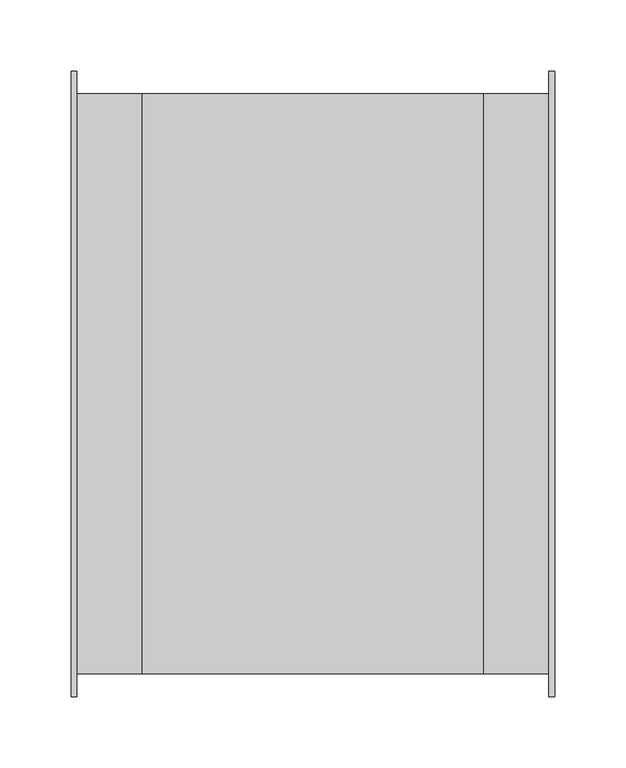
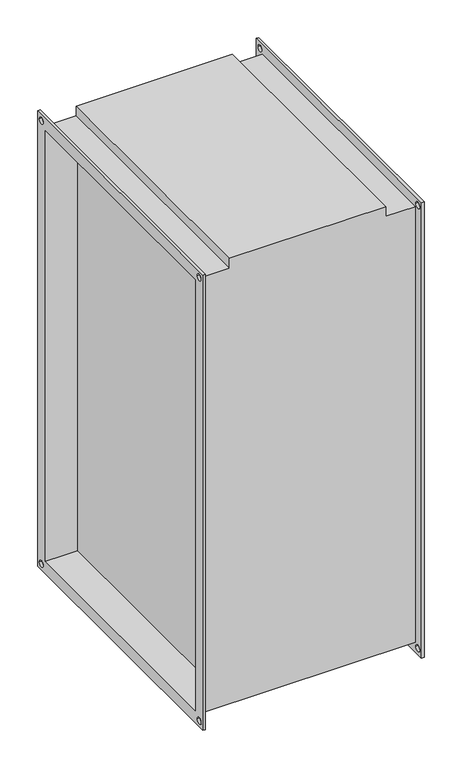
"""IFC4 building model written with IfcOpenShell, lengths in millimetres: proxy geometry, СВ_ВоздухонагревательЭлектрический_КанальныйПрямоугольный_200-1000_SPH-E : SPH-E-700x400/45."""

from ifc_helpers import new_model, si_unit, frame, origin, place, context, project, spatial, polyline, circle_curve, source, transform, mapped, element, save
from ifc_brep_helpers import plane_surface, revolved_surface, advanced_brep


def mechanical_equipment_1e4f478c(model_context):
    return source(origin(), model_context, "Body", "AdvancedBrep", [
        advanced_brep(
        [(-120.0, -204.0, 354.0), (-166.0, -204.0, 354.0), (-166.0, -204.0, -354.0), (166.0, -204.0, -354.0), (166.0, -204.0, 354.0), (120.0, -204.0, 354.0), (120.0, -204.0, 370.0), (-120.0, -204.0, 370.0), (-166.0, 204.0, -354.0), (166.0, 204.0, -354.0), (-166.0, 204.0, 354.0), (-120.0, 204.0, 354.0), (-120.0, 204.0, 370.0), (120.0, 204.0, 370.0), (120.0, 204.0, 354.0), (166.0, 204.0, 354.0), (120.0, 200.0, -350.0), (120.0, 200.0, 350.0), (120.0, -200.0, 350.0), (120.0, -200.0, -350.0), (-120.0, -200.0, 350.0), (-120.0, 200.0, 350.0), (-120.0, 200.0, -350.0), (-120.0, -200.0, -350.0), (-170.0, -220.0, 370.0), (-170.0, 220.0, 370.0), (-170.0, 220.0, -370.0), (-170.0, -220.0, -370.0), (-170.0, -200.0, 350.0), (-170.0, -200.0, -350.0), (-170.0, 200.0, -350.0), (-170.0, 200.0, 350.0), (-170.0, 205.0, 360.0), (-170.0, 215.0, 360.0), (-170.0, -215.0, 360.0), (-170.0, -205.0, 360.0), (-170.0, -215.0, -360.0), (-170.0, -205.0, -360.0), (-170.0, 205.0, -360.0), (-170.0, 215.0, -360.0), (-166.0, -220.0, 370.0), (-166.0, -220.0, -370.0), (-166.0, 220.0, -370.0), (-166.0, 220.0, 370.0), (-166.0, 215.0, 360.0), (-166.0, 205.0, 360.0), (-166.0, -205.0, 360.0), (-166.0, -215.0, 360.0), (-166.0, -205.0, -360.0), (-166.0, -215.0, -360.0), (-166.0, 215.0, -360.0), (-166.0, 205.0, -360.0), (166.0, 220.0, 370.0), (166.0, 220.0, -370.0), (166.0, -220.0, -370.0), (166.0, -220.0, 370.0), (166.0, 205.0, 360.0), (166.0, 215.0, 360.0), (166.0, -215.0, 360.0), (166.0, -205.0, 360.0), (166.0, -215.0, -360.0), (166.0, -205.0, -360.0), (166.0, 205.0, -360.0), (166.0, 215.0, -360.0), (170.0, 220.0, 370.0), (170.0, -220.0, 370.0), (170.0, -220.0, -370.0), (170.0, 220.0, -370.0), (170.0, 200.0, 350.0), (170.0, 200.0, -350.0), (170.0, -200.0, -350.0), (170.0, -200.0, 350.0), (170.0, 215.0, 360.0), (170.0, 205.0, 360.0), (170.0, -205.0, 360.0), (170.0, -215.0, 360.0), (170.0, -205.0, -360.0), (170.0, -215.0, -360.0), (170.0, 215.0, -360.0), (170.0, 205.0, -360.0)],
        [
            (0, 1),
            (1, 2),
            (2, 3),
            (3, 4),
            (4, 5),
            (5, 6),
            (6, 7),
            (7, 0),
            (2, 8),
            (8, 9),
            (9, 3),
            (10, 11),
            (11, 12),
            (12, 13),
            (13, 14),
            (14, 15),
            (15, 9),
            (8, 10),
            (0, 11),
            (10, 1),
            (13, 6),
            (5, 14),
            (16, 17),
            (17, 18),
            (18, 19),
            (19, 16),
            (7, 12),
            (20, 21),
            (21, 22),
            (22, 23),
            (23, 20),
            (4, 15),
            (24, 25),
            (25, 26),
            (26, 27),
            (27, 24),
            (28, 29),
            (29, 30),
            (30, 31),
            (31, 28),
            (32, 33, circle_curve(frame((-170.0, 210.0, 360.0), z_axis=(1.0, 0.0, 0.0), x_axis=(0.0, 1.0, 0.0)), 5.0)),
            (33, 32, circle_curve(frame((-170.0, 210.0, 360.0), z_axis=(1.0, 0.0, 0.0), x_axis=(0.0, 1.0, 0.0)), 5.0)),
            (34, 35, circle_curve(frame((-170.0, -210.0, 360.0), z_axis=(1.0, 0.0, 0.0), x_axis=(0.0, 1.0, 0.0)), 5.0)),
            (35, 34, circle_curve(frame((-170.0, -210.0, 360.0), z_axis=(1.0, 0.0, 0.0), x_axis=(0.0, 1.0, 0.0)), 5.0)),
            (36, 37, circle_curve(frame((-170.0, -210.0, -360.0), z_axis=(1.0, 0.0, 0.0), x_axis=(0.0, 1.0, 0.0)), 5.0)),
            (37, 36, circle_curve(frame((-170.0, -210.0, -360.0), z_axis=(1.0, 0.0, 0.0), x_axis=(0.0, 1.0, 0.0)), 5.0)),
            (38, 39, circle_curve(frame((-170.0, 210.0, -360.0), z_axis=(1.0, 0.0, 0.0), x_axis=(0.0, 1.0, 0.0)), 5.0)),
            (39, 38, circle_curve(frame((-170.0, 210.0, -360.0), z_axis=(1.0, 0.0, 0.0), x_axis=(0.0, 1.0, 0.0)), 5.0)),
            (40, 41),
            (41, 42),
            (42, 43),
            (43, 40),
            (44, 45, circle_curve(frame((-166.0, 210.0, 360.0), z_axis=(-1.0, 0.0, 0.0), x_axis=(0.0, 1.0, 0.0)), 5.0)),
            (45, 44, circle_curve(frame((-166.0, 210.0, 360.0), z_axis=(-1.0, 0.0, 0.0), x_axis=(0.0, 1.0, 0.0)), 5.0)),
            (46, 47, circle_curve(frame((-166.0, -210.0, 360.0), z_axis=(-1.0, 0.0, 0.0), x_axis=(0.0, 1.0, 0.0)), 5.0)),
            (47, 46, circle_curve(frame((-166.0, -210.0, 360.0), z_axis=(-1.0, 0.0, 0.0), x_axis=(0.0, 1.0, 0.0)), 5.0)),
            (48, 49, circle_curve(frame((-166.0, -210.0, -360.0), z_axis=(-1.0, 0.0, 0.0), x_axis=(0.0, 1.0, 0.0)), 5.0)),
            (49, 48, circle_curve(frame((-166.0, -210.0, -360.0), z_axis=(-1.0, 0.0, 0.0), x_axis=(0.0, 1.0, 0.0)), 5.0)),
            (50, 51, circle_curve(frame((-166.0, 210.0, -360.0), z_axis=(-1.0, 0.0, 0.0), x_axis=(0.0, 1.0, 0.0)), 5.0)),
            (51, 50, circle_curve(frame((-166.0, 210.0, -360.0), z_axis=(-1.0, 0.0, 0.0), x_axis=(0.0, 1.0, 0.0)), 5.0)),
            (27, 41),
            (40, 24),
            (26, 42),
            (25, 43),
            (52, 53),
            (53, 54),
            (54, 55),
            (55, 52),
            (56, 57, circle_curve(frame((166.0, 210.0, 360.0), z_axis=(1.0, 0.0, 0.0), x_axis=(0.0, 1.0, 0.0)), 5.0)),
            (57, 56, circle_curve(frame((166.0, 210.0, 360.0), z_axis=(1.0, 0.0, 0.0), x_axis=(0.0, 1.0, 0.0)), 5.0)),
            (58, 59, circle_curve(frame((166.0, -210.0, 360.0), z_axis=(1.0, 0.0, 0.0), x_axis=(0.0, 1.0, 0.0)), 5.0)),
            (59, 58, circle_curve(frame((166.0, -210.0, 360.0), z_axis=(1.0, 0.0, 0.0), x_axis=(0.0, 1.0, 0.0)), 5.0)),
            (60, 61, circle_curve(frame((166.0, -210.0, -360.0), z_axis=(1.0, 0.0, 0.0), x_axis=(0.0, 1.0, 0.0)), 5.0)),
            (61, 60, circle_curve(frame((166.0, -210.0, -360.0), z_axis=(1.0, 0.0, 0.0), x_axis=(0.0, 1.0, 0.0)), 5.0)),
            (62, 63, circle_curve(frame((166.0, 210.0, -360.0), z_axis=(1.0, 0.0, 0.0), x_axis=(0.0, 1.0, 0.0)), 5.0)),
            (63, 62, circle_curve(frame((166.0, 210.0, -360.0), z_axis=(1.0, 0.0, 0.0), x_axis=(0.0, 1.0, 0.0)), 5.0)),
            (64, 65),
            (65, 66),
            (66, 67),
            (67, 64),
            (68, 69),
            (69, 70),
            (70, 71),
            (71, 68),
            (72, 73, circle_curve(frame((170.0, 210.0, 360.0), z_axis=(-1.0, 0.0, 0.0), x_axis=(0.0, 1.0, 0.0)), 5.0)),
            (73, 72, circle_curve(frame((170.0, 210.0, 360.0), z_axis=(-1.0, 0.0, 0.0), x_axis=(0.0, 1.0, 0.0)), 5.0)),
            (74, 75, circle_curve(frame((170.0, -210.0, 360.0), z_axis=(-1.0, 0.0, 0.0), x_axis=(0.0, 1.0, 0.0)), 5.0)),
            (75, 74, circle_curve(frame((170.0, -210.0, 360.0), z_axis=(-1.0, 0.0, 0.0), x_axis=(0.0, 1.0, 0.0)), 5.0)),
            (76, 77, circle_curve(frame((170.0, -210.0, -360.0), z_axis=(-1.0, 0.0, 0.0), x_axis=(0.0, 1.0, 0.0)), 5.0)),
            (77, 76, circle_curve(frame((170.0, -210.0, -360.0), z_axis=(-1.0, 0.0, 0.0), x_axis=(0.0, 1.0, 0.0)), 5.0)),
            (78, 79, circle_curve(frame((170.0, 210.0, -360.0), z_axis=(-1.0, 0.0, 0.0), x_axis=(0.0, 1.0, 0.0)), 5.0)),
            (79, 78, circle_curve(frame((170.0, 210.0, -360.0), z_axis=(-1.0, 0.0, 0.0), x_axis=(0.0, 1.0, 0.0)), 5.0)),
            (55, 65),
            (64, 52),
            (54, 66),
            (53, 67),
            (31, 21),
            (20, 28),
            (30, 22),
            (29, 23),
            (68, 17),
            (16, 69),
            (19, 70),
            (18, 71),
            (32, 45),
            (44, 33),
            (56, 73),
            (72, 57),
            (34, 47),
            (46, 35),
            (58, 75),
            (74, 59),
            (36, 49),
            (48, 37),
            (60, 77),
            (76, 61),
            (38, 51),
            (50, 39),
            (62, 79),
            (78, 63),
        ],
        [
            plane_surface(frame((-120.0, -204.0, 354.0), z_axis=(0.0, -1.0, 0.0), x_axis=(-1.0, 0.0, 0.0))),
            plane_surface(frame((-120.0, -204.0, -354.0), z_axis=(0.0, 0.0, -1.0), x_axis=(-1.0, 0.0, 0.0))),
            plane_surface(frame((-120.0, 204.0, -354.0), z_axis=(0.0, 1.0, 0.0), x_axis=(-1.0, 0.0, 0.0))),
            plane_surface(frame((-120.0, 204.0, 354.0), z_axis=(0.0, 0.0, 1.0), x_axis=(-1.0, 0.0, 0.0))),
            plane_surface(frame((120.0, -204.0, 370.0), z_axis=(1.0, 0.0, 0.0), x_axis=(0.0, 0.0, -1.0))),
            plane_surface(frame((-120.0, -204.0, 370.0), z_axis=(-1.0, 0.0, 0.0), x_axis=(0.0, 0.0, 1.0))),
            plane_surface(frame((120.0, 204.0, 370.0), z_axis=(0.0, 0.0, 1.0), x_axis=(-1.0, 0.0, 0.0))),
            plane_surface(frame((166.0, 204.0, 354.0), z_axis=(0.0, 0.0, 1.0), x_axis=(-1.0, 0.0, 0.0))),
            plane_surface(frame((-170.0, -220.0, 370.0), z_axis=(-1.0, 0.0, 0.0), x_axis=(0.0, 0.0, 1.0))),
            plane_surface(frame((-166.0, -220.0, 370.0), z_axis=(1.0, 0.0, 0.0), x_axis=(0.0, 0.0, -1.0))),
            plane_surface(frame((-166.0, -220.0, 370.0), z_axis=(0.0, -1.0, 0.0), x_axis=(-1.0, 0.0, 0.0))),
            plane_surface(frame((-166.0, -220.0, -370.0), z_axis=(0.0, 0.0, -1.0), x_axis=(-1.0, 0.0, 0.0))),
            plane_surface(frame((-166.0, 220.0, -370.0), z_axis=(0.0, 1.0, 0.0), x_axis=(-1.0, 0.0, 0.0))),
            plane_surface(frame((-166.0, 220.0, 370.0), z_axis=(0.0, 0.0, 1.0), x_axis=(-1.0, 0.0, 0.0))),
            plane_surface(frame((166.0, 200.0, -350.0), z_axis=(-1.0, 0.0, 0.0), x_axis=(0.0, 0.0, 1.0))),
            plane_surface(frame((170.0, 200.0, -350.0), z_axis=(1.0, 0.0, 0.0), x_axis=(0.0, 0.0, -1.0))),
            plane_surface(frame((170.0, 220.0, 370.0), z_axis=(0.0, 0.0, 1.0), x_axis=(-1.0, 0.0, 0.0))),
            plane_surface(frame((170.0, -220.0, 370.0), z_axis=(0.0, -1.0, 0.0), x_axis=(-1.0, 0.0, 0.0))),
            plane_surface(frame((170.0, -220.0, -370.0), z_axis=(0.0, 0.0, -1.0), x_axis=(-1.0, 0.0, 0.0))),
            plane_surface(frame((170.0, 220.0, -370.0), z_axis=(0.0, 1.0, 0.0), x_axis=(-1.0, 0.0, 0.0))),
            plane_surface(frame((-166.0, -200.0, 350.0), z_axis=(0.0, 0.0, -1.0), x_axis=(-1.0, 0.0, 0.0))),
            plane_surface(frame((-166.0, 200.0, 350.0), z_axis=(0.0, -1.0, 0.0), x_axis=(-1.0, 0.0, 0.0))),
            plane_surface(frame((-166.0, 200.0, -350.0), z_axis=(0.0, 0.0, 1.0), x_axis=(-1.0, 0.0, 0.0))),
            plane_surface(frame((-166.0, -200.0, -350.0), z_axis=(0.0, 1.0, 0.0), x_axis=(-1.0, 0.0, 0.0))),
            plane_surface(frame((170.0, 200.0, 350.0), z_axis=(0.0, -1.0, 0.0), x_axis=(-1.0, 0.0, 0.0))),
            plane_surface(frame((170.0, 200.0, -350.0), z_axis=(0.0, 0.0, 1.0), x_axis=(-1.0, 0.0, 0.0))),
            plane_surface(frame((170.0, -200.0, -350.0), z_axis=(0.0, 1.0, 0.0), x_axis=(-1.0, 0.0, 0.0))),
            plane_surface(frame((170.0, -200.0, 350.0), z_axis=(0.0, 0.0, -1.0), x_axis=(-1.0, 0.0, 0.0))),
            revolved_surface(polyline([(-166.0, 215.0, 360.0), (-170.0, 215.0, 360.0)]), (-170.0, 210.0, 360.0), (1.0, 0.0, 0.0)),
            revolved_surface(polyline([(170.0, 215.0, 360.0), (166.0, 215.0, 360.0)]), (-170.0, 210.0, 360.0), (1.0, 0.0, 0.0)),
            revolved_surface(polyline([(-166.0, -205.0, 360.0), (-170.0, -205.0, 360.0)]), (0.0, -210.0, 360.0), (1.0, 0.0, 0.0)),
            revolved_surface(polyline([(170.0, -205.0, 360.0), (166.0, -205.0, 360.0)]), (0.0, -210.0, 360.0), (1.0, 0.0, 0.0)),
            revolved_surface(polyline([(-166.0, -205.0, -360.0), (-170.0, -205.0, -360.0)]), (0.0, -210.0, -360.0), (1.0, 0.0, 0.0)),
            revolved_surface(polyline([(170.0, -205.0, -360.0), (166.0, -205.0, -360.0)]), (0.0, -210.0, -360.0), (1.0, 0.0, 0.0)),
            revolved_surface(polyline([(-166.0, 215.0, -360.0), (-170.0, 215.0, -360.0)]), (0.0, 210.0, -360.0), (1.0, 0.0, 0.0)),
            revolved_surface(polyline([(170.0, 215.0, -360.0), (166.0, 215.0, -360.0)]), (0.0, 210.0, -360.0), (1.0, 0.0, 0.0)),
        ],
        [
            (0, [[1, 2, 3, 4, 5, 6, 7, 8]]),
            (1, [[-3, 9, 10, 11]]),
            (2, [[12, 13, 14, 15, 16, 17, -10, 18]]),
            (3, [[-1, 19, -12, 20]]),
            (4, [[21, -6, 22, -15]]),
            (4, [[23, 24, 25, 26]]),
            (5, [[27, -13, -19, -8]]),
            (5, [[28, 29, 30, 31]]),
            (6, [[-21, -14, -27, -7]]),
            (7, [[-5, 32, -16, -22]]),
            (8, [[33, 34, 35, 36], [37, 38, 39, 40], [41, 42], [43, 44], [45, 46], [47, 48]]),
            (9, [[49, 50, 51, 52], [-2, -20, -18, -9], [53, 54], [55, 56], [57, 58], [59, 60]]),
            (10, [[-36, 61, -49, 62]]),
            (11, [[-35, 63, -50, -61]]),
            (12, [[-34, 64, -51, -63]]),
            (13, [[-33, -62, -52, -64]]),
            (14, [[65, 66, 67, 68], [-4, -11, -17, -32], [69, 70], [71, 72], [73, 74], [75, 76]]),
            (15, [[77, 78, 79, 80], [81, 82, 83, 84], [85, 86], [87, 88], [89, 90], [91, 92]]),
            (16, [[-68, 93, -77, 94]]),
            (17, [[-67, 95, -78, -93]]),
            (18, [[-66, 96, -79, -95]]),
            (19, [[-65, -94, -80, -96]]),
            (20, [[-40, 97, -28, 98]]),
            (21, [[-39, 99, -29, -97]]),
            (22, [[-38, 100, -30, -99]]),
            (23, [[-37, -98, -31, -100]]),
            (24, [[-81, 101, -23, 102]]),
            (25, [[-82, -102, -26, 103]]),
            (26, [[-83, -103, -25, 104]]),
            (27, [[-101, -84, -104, -24]]),
            (28, [[105, -53, 106, -41]]),
            (29, [[107, -85, 108, -69]]),
            (28, [[-105, -42, -106, -54]]),
            (29, [[-107, -70, -108, -86]]),
            (30, [[109, -55, 110, -43]]),
            (31, [[111, -87, 112, -71]]),
            (30, [[-109, -44, -110, -56]]),
            (31, [[-111, -72, -112, -88]]),
            (32, [[113, -57, 114, -45]]),
            (33, [[115, -89, 116, -73]]),
            (32, [[-113, -46, -114, -58]]),
            (33, [[-115, -74, -116, -90]]),
            (34, [[117, -59, 118, -47]]),
            (35, [[119, -91, 120, -75]]),
            (34, [[-117, -48, -118, -60]]),
            (35, [[-119, -76, -120, -92]]),
        ],
    ),
    ])


if __name__ == "__main__":
    model = new_model("IFC4")
    model_context = context("Model", 3, world=origin())
    ifc_project = project(units=[si_unit("LENGTHUNIT", "METRE", prefix="MILLI")], contexts=[model_context])
    site = spatial("IfcSite", under=ifc_project)
    building = spatial("IfcBuilding", under=site)
    placement = place(None, origin())
    mechanical_equipment_shape = mechanical_equipment_1e4f478c(model_context)
    element("IfcBuildingElementProxy", 1, Name="СВ_ВоздухонагревательЭлектрический_КанальныйПрямоугольный_200-1000_SPH-E : SPH-E-700x400/45", ObjectType="СВ_ВоздухонагревательЭлектрический_КанальныйПрямоугольный_200-1000_SPH-E : SPH-E-700x400/45", at=placement, inside=building, context=model_context, shape_type="MappedRepresentation", body=[
        mapped(mechanical_equipment_shape, transform((0.0, 0.0, 0.0), x_axis=(1.0, 0.0, 0.0), y_axis=(0.0, 1.0, 0.0), z_axis=(0.0, 0.0, 1.0))),
    ])
    save(model, "model.ifc")
